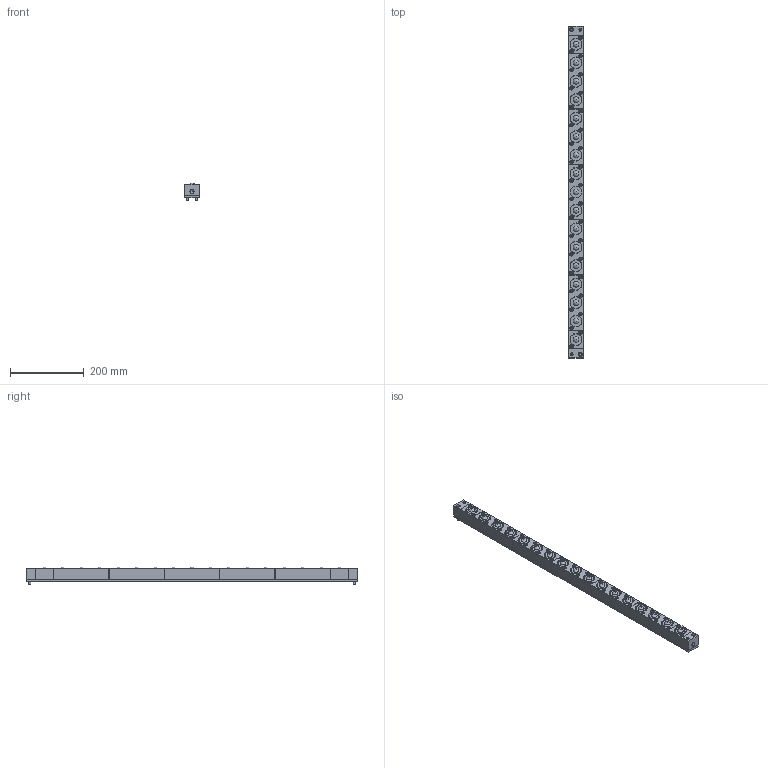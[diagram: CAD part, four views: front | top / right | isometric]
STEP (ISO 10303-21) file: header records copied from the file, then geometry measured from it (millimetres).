
FILE_DESCRIPTION(/* description */ (''),/* implementation_level */ '2;1');
FILE_NAME(/* name */ 'Z:\34-Tei\01-web 3Dデータ\40-ISR-38\X2\578B\X0\\ISR-38-900-A.stp',/* time_stamp */ '2015-01-15T17:57:19+09:00',/* author */ ('yamaki'),/* organization */ (''),/* preprocessor_version */ 'ST-DEVELOPER v15.6',/* originating_system */ 'Autodesk Inventor 2015',/* authorisation */ '');
FILE_SCHEMA (('AUTOMOTIVE_DESIGN { 1 0 10303 214 3 1 1 }'));
Length unit declared in the file: millimetre
Products named in the file (7): 4100AT-01-900; 4100AT-02; 4100AT-00; 4100AT-03; RSW10601; HCB10635; 4100AA
Bounding box: 38 x 900 x 48 mm (x, y, z)
Volume: 1187968.5 mm3; surface area: 374976.5 mm2
Topology: 29 solids, 29 shells, 855 faces, 1773 edges, 1138 vertices
Faces by surface type: plane 552, cylinder 170, cone 76, torus 40, sphere 17
Full cylindrical faces by diameter (mm): 6 x2, 6.5 x2, 7 x2, 8 x2, 8.5 x34, 9.5 x34, 10 x2, 10.5 x1, 11 x2, 25.7 x17, 31.5 x17, 32 x17, 35 x34
Entity records: 6191 total; most frequent: CARTESIAN_POINT 1128, DIRECTION 996, ORIENTED_EDGE 846, EDGE_CURVE 423, AXIS2_PLACEMENT_3D 369, EDGE_LOOP 340, VERTEX_POINT 303, LINE 258
